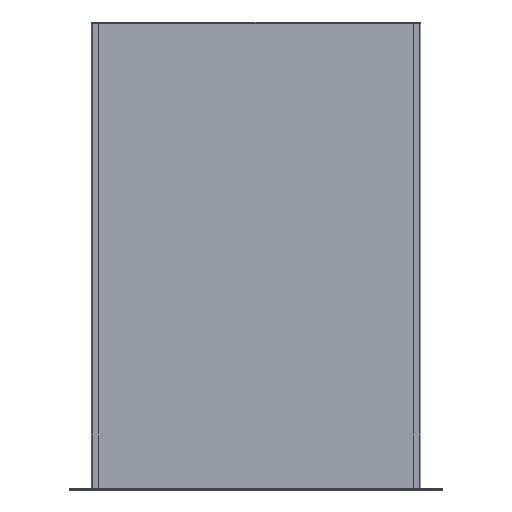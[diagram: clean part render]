
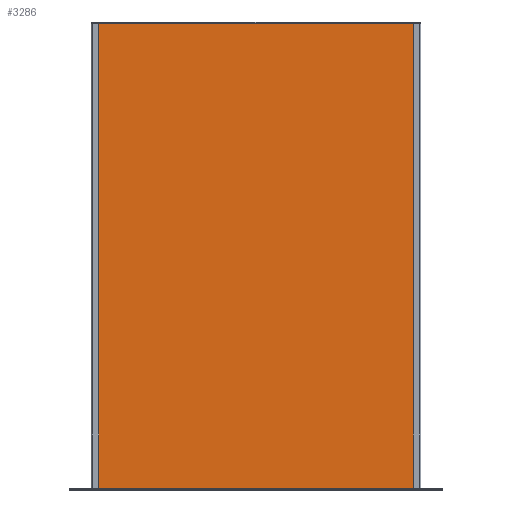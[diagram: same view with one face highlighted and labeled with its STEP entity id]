
A CAD part, top view. The second image highlights one B-rep face of the part: STEP entity #3286.
In plain terms, the highlighted planar face has unit normal (0, 0, 1).
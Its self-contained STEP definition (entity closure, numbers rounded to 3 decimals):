
#230=PLANE('',#3643);
#398=FACE_OUTER_BOUND('',#594,.T.);
#594=EDGE_LOOP('',(#3043,#3044,#3045,#3046));
#910=LINE('',#5476,#1254);
#917=LINE('',#5491,#1261);
#918=LINE('',#5493,#1262);
#919=LINE('',#5494,#1263);
#1254=VECTOR('',#4521,10.);
#1261=VECTOR('',#4534,10.);
#1262=VECTOR('',#4535,10.);
#1263=VECTOR('',#4536,10.);
#1698=VERTEX_POINT('',#5470);
#1700=VERTEX_POINT('',#5474);
#1705=VERTEX_POINT('',#5490);
#1706=VERTEX_POINT('',#5492);
#2150=EDGE_CURVE('',#1698,#1700,#910,.T.);
#2157=EDGE_CURVE('',#1705,#1698,#917,.T.);
#2158=EDGE_CURVE('',#1706,#1700,#918,.T.);
#2159=EDGE_CURVE('',#1705,#1706,#919,.T.);
#3043=ORIENTED_EDGE('',*,*,#2157,.T.);
#3044=ORIENTED_EDGE('',*,*,#2150,.T.);
#3045=ORIENTED_EDGE('',*,*,#2158,.F.);
#3046=ORIENTED_EDGE('',*,*,#2159,.F.);
#3286=ADVANCED_FACE('',(#398),#230,.T.);
#3643=AXIS2_PLACEMENT_3D('',#5489,#4532,#4533);
#4521=DIRECTION('',(0.,1.,0.));
#4532=DIRECTION('center_axis',(0.,0.,1.));
#4533=DIRECTION('ref_axis',(1.,0.,0.));
#4534=DIRECTION('',(1.,0.,0.));
#4535=DIRECTION('',(1.,0.,0.));
#4536=DIRECTION('',(0.,1.,0.));
#5470=CARTESIAN_POINT('',(444.6,0.,-19.3));
#5474=CARTESIAN_POINT('',(444.6,600.,-19.3));
#5476=CARTESIAN_POINT('',(444.6,0.,-19.3));
#5489=CARTESIAN_POINT('Origin',(38.4,0.,-19.3));
#5490=CARTESIAN_POINT('',(38.4,0.,-19.3));
#5491=CARTESIAN_POINT('',(38.4,0.,-19.3));
#5492=CARTESIAN_POINT('',(38.4,600.,-19.3));
#5493=CARTESIAN_POINT('',(38.4,600.,-19.3));
#5494=CARTESIAN_POINT('',(38.4,0.,-19.3));
